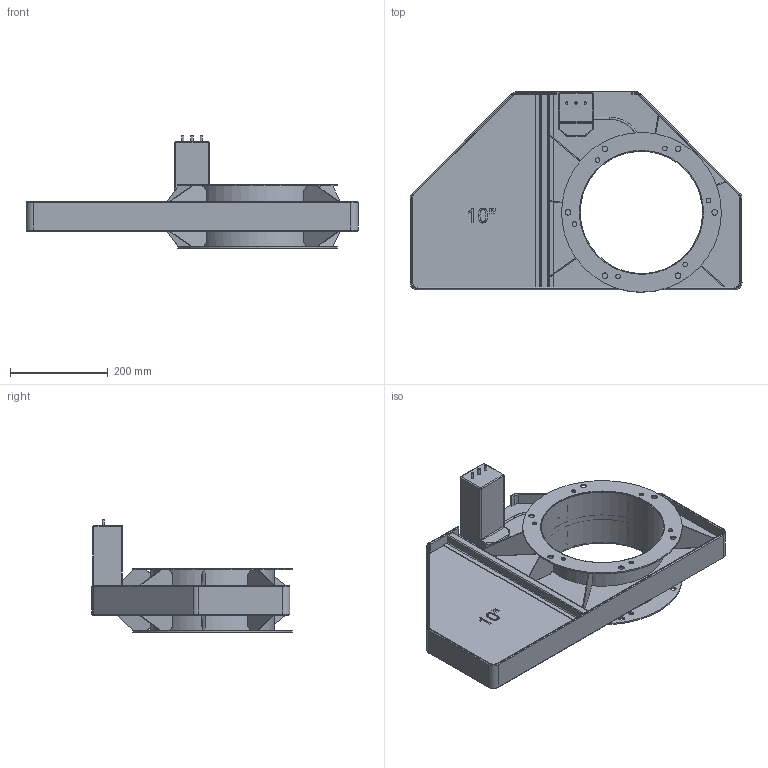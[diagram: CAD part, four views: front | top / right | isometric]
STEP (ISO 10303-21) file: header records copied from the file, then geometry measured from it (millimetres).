
FILE_DESCRIPTION( ('This file contains a STEP AP42 implementation' ,'as created by ZW3D STEP Interface translator.') ,'2;1' );
FILE_NAME( '3D Model-HO210 Body with drive.stp' ,'20 629.141720', (''), ('ZWCAD Software Co.'), 'Version 1.0', 'ZW3D to STEP translator', '' );
FILE_SCHEMA(('AUTOMOTIVE_DESIGN'));
Length unit declared in the file: millimetre
Products named in the file (1): 0
Bounding box: 679.86 x 410.62 x 230.3 mm (x, y, z)
Volume: 3984547.8 mm3; surface area: 1060888.6 mm2
Topology: 16 solids, 16 shells, 841 faces, 2243 edges, 1572 vertices
Faces by surface type: bspline 841
Entity records: 27039 total; most frequent: CARTESIAN_POINT 12927, ORIENTED_EDGE 4320, EDGE_CURVE 2160, B_SPLINE_CURVE_WITH_KNOTS 1797, VERTEX_POINT 1410, EDGE_LOOP 954, FACE_OUTER_BOUND 841, ADVANCED_FACE 841
